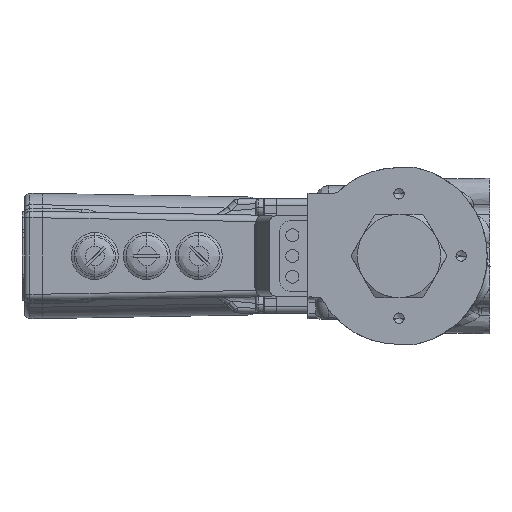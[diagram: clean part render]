
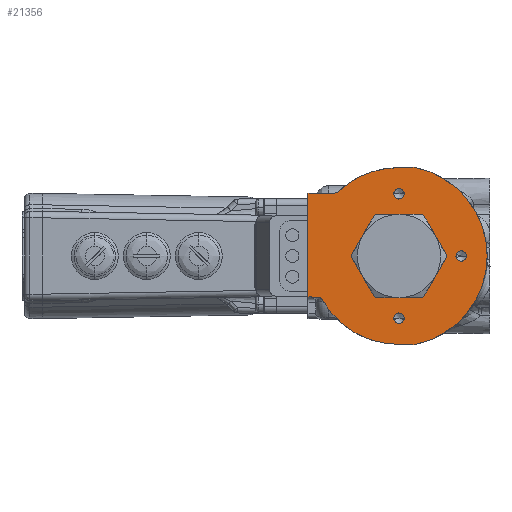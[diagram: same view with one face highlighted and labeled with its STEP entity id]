
A CAD part, left-side view. The second image highlights one B-rep face of the part: STEP entity #21356.
In plain terms, the highlighted planar face has unit normal (-1, 0, 0).
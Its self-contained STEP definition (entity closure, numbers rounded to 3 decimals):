
#5011=CARTESIAN_POINT('',(-53.,0.896,0.));
#5012=DIRECTION('',(-1.,0.,0.));
#5013=DIRECTION('',(0.,-0.205,-0.979));
#5014=AXIS2_PLACEMENT_3D('',#5011,#5012,#5013);
#5153=CARTESIAN_POINT('',(-53.,0.,-23.9));
#5154=DIRECTION('',(-1.,0.,0.));
#5155=DIRECTION('',(0.,1.,0.));
#5156=AXIS2_PLACEMENT_3D('',#5153,#5154,#5155);
#5161=CARTESIAN_POINT('',(-53.,0.,-23.9));
#5162=DIRECTION('',(-1.,0.,0.));
#5163=DIRECTION('',(0.,-1.,0.));
#5164=AXIS2_PLACEMENT_3D('',#5161,#5162,#5163);
#5169=CARTESIAN_POINT('',(-53.,-23.9,0.));
#5170=DIRECTION('',(-1.,0.,0.));
#5171=DIRECTION('',(0.,1.,0.));
#5172=AXIS2_PLACEMENT_3D('',#5169,#5170,#5171);
#5177=CARTESIAN_POINT('',(-53.,-23.9,0.));
#5178=DIRECTION('',(-1.,0.,0.));
#5179=DIRECTION('',(0.,-1.,0.));
#5180=AXIS2_PLACEMENT_3D('',#5177,#5178,#5179);
#5185=CARTESIAN_POINT('',(-53.,0.,23.9));
#5186=DIRECTION('',(-1.,0.,0.));
#5187=DIRECTION('',(0.,1.,0.));
#5188=AXIS2_PLACEMENT_3D('',#5185,#5186,#5187);
#5193=CARTESIAN_POINT('',(-53.,0.,23.9));
#5194=DIRECTION('',(-1.,0.,0.));
#5195=DIRECTION('',(0.,-1.,0.));
#5196=AXIS2_PLACEMENT_3D('',#5193,#5194,#5195);
#5201=CARTESIAN_POINT('',(-53.,0.,0.));
#5202=DIRECTION('',(1.,0.,0.));
#5203=DIRECTION('',(0.,-1.,0.));
#5204=AXIS2_PLACEMENT_3D('',#5201,#5202,#5203);
#5209=CARTESIAN_POINT('',(-53.,0.,0.));
#5210=DIRECTION('',(1.,0.,0.));
#5211=DIRECTION('',(0.,1.,0.));
#5212=AXIS2_PLACEMENT_3D('',#5209,#5210,#5211);
#5217=DIRECTION('',(0.,1.,0.017));
#5218=VECTOR('',#5217,3.755);
#5219=CARTESIAN_POINT('',(-53.,31.246,-15.809));
#5220=LINE('',#5219,#5218);
#5494=CARTESIAN_POINT('',(-53.,31.281,-17.799));
#5495=DIRECTION('',(-1.,0.,0.));
#5496=DIRECTION('',(0.,-0.869,0.495));
#5497=AXIS2_PLACEMENT_3D('',#5494,#5495,#5496);
#5510=CARTESIAN_POINT('',(-53.,0.,0.));
#5511=DIRECTION('',(-1.,0.,0.));
#5512=DIRECTION('',(0.,0.017,1.));
#5513=AXIS2_PLACEMENT_3D('',#5510,#5511,#5512);
#5564=CARTESIAN_POINT('',(-53.,0.,0.));
#5565=DIRECTION('',(-1.,0.,0.));
#5566=DIRECTION('',(0.,0.869,-0.495));
#5567=AXIS2_PLACEMENT_3D('',#5564,#5565,#5566);
#5587=CARTESIAN_POINT('',(-53.,24.663,26.224));
#5588=DIRECTION('',(1.,0.,0.));
#5589=DIRECTION('',(0.,-0.685,-0.728));
#5590=AXIS2_PLACEMENT_3D('',#5587,#5588,#5589);
#5595=DIRECTION('',(0.,1.,-0.017));
#5596=VECTOR('',#5595,10.373);
#5597=CARTESIAN_POINT('',(-53.,24.628,24.225));
#5598=LINE('',#5597,#5596);
#5623=DIRECTION('',(0.,0.,1.));
#5624=VECTOR('',#5623,39.787);
#5625=CARTESIAN_POINT('',(-53.,35.,-15.744));
#5626=LINE('',#5625,#5624);
#8724=CARTESIAN_POINT('',(-53.,-5.814,32.106));
#8725=DIRECTION('',(1.,0.,0.));
#8726=DIRECTION('',(0.,0.017,1.));
#8727=AXIS2_PLACEMENT_3D('',#8724,#8725,#8726);
#8740=DIRECTION('',(0.,1.,-0.017));
#8741=VECTOR('',#8740,6.373);
#8742=CARTESIAN_POINT('',(-53.,-5.779,34.106));
#8743=LINE('',#8742,#8741);
#8992=DIRECTION('',(0.,-1.,-0.017));
#8993=VECTOR('',#8992,6.373);
#8994=CARTESIAN_POINT('',(-53.,0.593,-33.995));
#8995=LINE('',#8994,#8993);
#9026=CARTESIAN_POINT('',(-53.,-5.814,-32.106));
#9027=DIRECTION('',(1.,0.,0.));
#9028=DIRECTION('',(0.,-0.205,-0.979));
#9029=AXIS2_PLACEMENT_3D('',#9026,#9027,#9028);
#14331=CARTESIAN_POINT('',(-53.,31.246,-15.809));
#14332=CARTESIAN_POINT('',(-53.,35.,-15.744));
#14333=VERTEX_POINT('',#14331);
#14334=VERTEX_POINT('',#14332);
#14337=CARTESIAN_POINT('',(-53.,24.628,24.225));
#14338=CARTESIAN_POINT('',(-53.,35.,24.044));
#14339=VERTEX_POINT('',#14337);
#14340=VERTEX_POINT('',#14338);
#14425=CARTESIAN_POINT('',(-53.,2.,-23.9));
#14426=CARTESIAN_POINT('',(-53.,-2.,-23.9));
#14427=VERTEX_POINT('',#14425);
#14428=VERTEX_POINT('',#14426);
#14461=CARTESIAN_POINT('',(-53.,-21.9,0.));
#14462=CARTESIAN_POINT('',(-53.,-25.9,0.));
#14463=VERTEX_POINT('',#14461);
#14464=VERTEX_POINT('',#14462);
#14465=CARTESIAN_POINT('',(-53.,2.,23.9));
#14466=CARTESIAN_POINT('',(-53.,-2.,23.9));
#14467=VERTEX_POINT('',#14465);
#14468=VERTEX_POINT('',#14466);
#14469=CARTESIAN_POINT('',(-53.,0.593,-33.995));
#14470=CARTESIAN_POINT('',(-53.,-5.779,-34.106));
#14471=VERTEX_POINT('',#14469);
#14472=VERTEX_POINT('',#14470);
#14473=CARTESIAN_POINT('',(-53.,-6.223,-34.064));
#14474=CARTESIAN_POINT('',(-53.,-6.223,34.064));
#14475=VERTEX_POINT('',#14473);
#14476=VERTEX_POINT('',#14474);
#14477=CARTESIAN_POINT('',(-53.,-5.779,34.106));
#14478=CARTESIAN_POINT('',(-53.,0.593,33.995));
#14479=VERTEX_POINT('',#14477);
#14480=VERTEX_POINT('',#14478);
#14481=CARTESIAN_POINT('',(-53.,23.293,24.767));
#14482=VERTEX_POINT('',#14481);
#14483=CARTESIAN_POINT('',(-53.,29.551,-16.815));
#14484=VERTEX_POINT('',#14483);
#15054=CARTESIAN_POINT('',(-53.,-15.75,0.));
#15055=CARTESIAN_POINT('',(-53.,15.75,0.));
#15056=VERTEX_POINT('',#15054);
#15057=VERTEX_POINT('',#15055);
#21302=CARTESIAN_POINT('',(-53.,-35.,-40.928));
#21303=DIRECTION('',(1.,0.,0.));
#21304=DIRECTION('',(0.,1.,0.));
#21305=AXIS2_PLACEMENT_3D('',#21302,#21303,#21304);
#21306=PLANE('',#21305);
#21308=ORIENTED_EDGE('',*,*,#21307,.T.);
#21310=ORIENTED_EDGE('',*,*,#21309,.T.);
#21312=ORIENTED_EDGE('',*,*,#21311,.F.);
#21314=ORIENTED_EDGE('',*,*,#21313,.F.);
#21316=ORIENTED_EDGE('',*,*,#21315,.F.);
#21318=ORIENTED_EDGE('',*,*,#21317,.F.);
#21320=ORIENTED_EDGE('',*,*,#21319,.T.);
#21321=ORIENTED_EDGE('',*,*,#21289,.F.);
#21323=ORIENTED_EDGE('',*,*,#21322,.T.);
#21325=ORIENTED_EDGE('',*,*,#21324,.F.);
#21327=ORIENTED_EDGE('',*,*,#21326,.F.);
#21329=ORIENTED_EDGE('',*,*,#21328,.T.);
#21330=EDGE_LOOP('',(#21308,#21310,#21312,#21314,#21316,#21318,#21320,#21321,
#21323,#21325,#21327,#21329));
#21331=FACE_OUTER_BOUND('',#21330,.F.);
#21333=ORIENTED_EDGE('',*,*,#21332,.T.);
#21335=ORIENTED_EDGE('',*,*,#21334,.T.);
#21336=EDGE_LOOP('',(#21333,#21335));
#21337=FACE_BOUND('',#21336,.F.);
#21339=ORIENTED_EDGE('',*,*,#21338,.T.);
#21341=ORIENTED_EDGE('',*,*,#21340,.T.);
#21342=EDGE_LOOP('',(#21339,#21341));
#21343=FACE_BOUND('',#21342,.F.);
#21345=ORIENTED_EDGE('',*,*,#21344,.T.);
#21347=ORIENTED_EDGE('',*,*,#21346,.T.);
#21348=EDGE_LOOP('',(#21345,#21347));
#21349=FACE_BOUND('',#21348,.F.);
#21351=ORIENTED_EDGE('',*,*,#21350,.F.);
#21353=ORIENTED_EDGE('',*,*,#21352,.F.);
#21354=EDGE_LOOP('',(#21351,#21353));
#21355=FACE_BOUND('',#21354,.F.);
#5015=CIRCLE('',#5014,34.8);
#5157=CIRCLE('',#5156,2.);
#5165=CIRCLE('',#5164,2.);
#5173=CIRCLE('',#5172,2.);
#5181=CIRCLE('',#5180,2.);
#5189=CIRCLE('',#5188,2.);
#5197=CIRCLE('',#5196,2.);
#5205=CIRCLE('',#5204,15.75);
#5213=CIRCLE('',#5212,15.75);
#5498=CIRCLE('',#5497,1.99);
#5514=CIRCLE('',#5513,34.);
#5568=CIRCLE('',#5567,34.);
#5591=CIRCLE('',#5590,2.);
#8728=CIRCLE('',#8727,2.);
#9030=CIRCLE('',#9029,2.);
#21289=EDGE_CURVE('',#14475,#14476,#5015,.T.);
#21307=EDGE_CURVE('',#14333,#14334,#5220,.T.);
#21309=EDGE_CURVE('',#14334,#14340,#5626,.T.);
#21311=EDGE_CURVE('',#14339,#14340,#5598,.T.);
#21313=EDGE_CURVE('',#14482,#14339,#5591,.T.);
#21315=EDGE_CURVE('',#14480,#14482,#5514,.T.);
#21317=EDGE_CURVE('',#14479,#14480,#8743,.T.);
#21319=EDGE_CURVE('',#14479,#14476,#8728,.T.);
#21322=EDGE_CURVE('',#14475,#14472,#9030,.T.);
#21324=EDGE_CURVE('',#14471,#14472,#8995,.T.);
#21326=EDGE_CURVE('',#14484,#14471,#5568,.T.);
#21328=EDGE_CURVE('',#14484,#14333,#5498,.T.);
#21332=EDGE_CURVE('',#14427,#14428,#5157,.T.);
#21334=EDGE_CURVE('',#14428,#14427,#5165,.T.);
#21338=EDGE_CURVE('',#14463,#14464,#5173,.T.);
#21340=EDGE_CURVE('',#14464,#14463,#5181,.T.);
#21344=EDGE_CURVE('',#14467,#14468,#5189,.T.);
#21346=EDGE_CURVE('',#14468,#14467,#5197,.T.);
#21350=EDGE_CURVE('',#15056,#15057,#5205,.T.);
#21352=EDGE_CURVE('',#15057,#15056,#5213,.T.);
#21356=ADVANCED_FACE('',(#21331,#21337,#21343,#21349,#21355),#21306,.F.);
